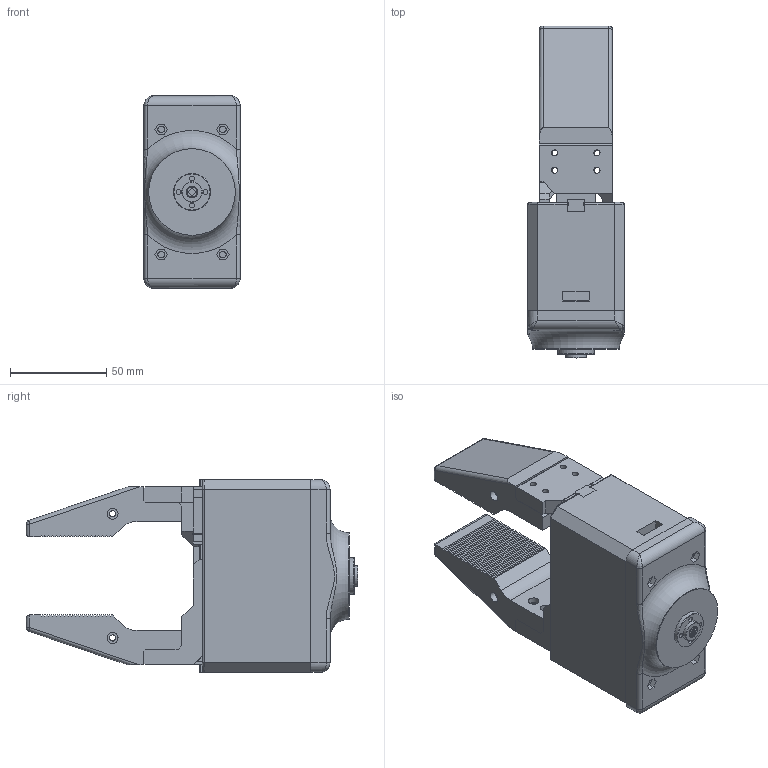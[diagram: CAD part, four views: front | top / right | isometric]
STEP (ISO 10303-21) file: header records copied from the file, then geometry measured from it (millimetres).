
FILE_DESCRIPTION(/* description */ ('STEP AP203'),/* implementation_level */ '2;1');
FILE_NAME(/* name */ 'gripper MGN7 with rail TD9512.stp',/* time_stamp */ '2025-12-16T11:35:02+01:00',/* author */ ('Ryzen5700u'),/* organization */ (''),/* preprocessor_version */ 'ST-DEVELOPER v20',/* originating_system */ 'Autodesk Inventor 2025',/* authorisation */ '');
FILE_SCHEMA (('AUTOMOTIVE_DESIGN { 1 0 10303 214 3 1 1 }'));
Length unit declared in the file: millimetre
Products named in the file (13): MGN7 with rail; pignone; cremagliera; cremagliera2; TD-9512MG; base_servo2; Linear Rail & Block LML9B; Linear Guide Rail LML9B; Linear Guide Block LML9B; dito2_MIR; dito2; base_polso; disco_servo
Assembly tree (14 placements, depth 3):
  MGN7 with rail
    pignone
    cremagliera
    cremagliera2
    TD-9512MG
    disco_servo  x2
    base_servo2
    Linear Rail & Block LML9B
      Linear Guide Rail LML9B
      Linear Guide Block LML9B  x2
    dito2_MIR
    dito2
    base_polso
Bounding box: 50 x 172.5 x 100 mm (x, y, z)
Volume: 339449.3 mm3; surface area: 120750 mm2
Topology: 23 solids, 24 shells, 1515 faces, 3948 edges, 2536 vertices
Faces by surface type: plane 887, cylinder 383, bspline 142, sphere 63, cone 23, torus 17
Full cylindrical faces by diameter (mm): 2.459 x1, 2.5 x16, 2.7 x8, 3 x4, 3.2 x17, 3.4 x26, 4 x8, 4.901 x1, 5.5 x5, 5.6 x21, 6.2 x2, 6.5 x6, 10 x1, 10.6 x2, 19.2 x2, 24 x1, 45 x1
Entity records: 44632 total; most frequent: CARTESIAN_POINT 12469, ORIENTED_EDGE 6762, DIRECTION 6122, EDGE_CURVE 3382, LINE 2270, VECTOR 2270, VERTEX_POINT 2168, AXIS2_PLACEMENT_3D 1926
